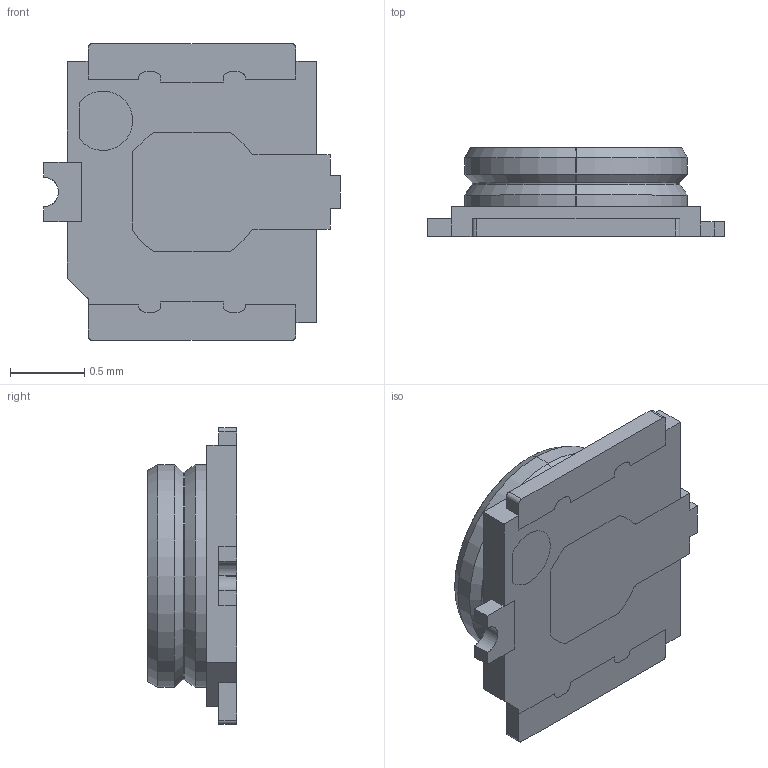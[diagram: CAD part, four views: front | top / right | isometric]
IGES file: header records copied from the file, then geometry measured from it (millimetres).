
Start section: SolidWorks IGES file using analytic representation for surfaces
Global section: file name: C:\3dwork\imaji\00.Web model check\00. New 3D\MHF 4\20449-001EC RECEPTACLE IGES R5 ALL.IGS; native system: SolidWorks 2017; preprocessor: SolidWorks 2017; author: ipxcad-013; date: 180423.165103; units: millimetre
Bounding box: 2 x 0.6 x 2 mm (x, y, z)
Surface area: 13.4 mm2 (no closed solid volume)
Topology: 0 solids, 0 shells, 58 faces, 464 edges, 464 vertices
Faces by surface type: bspline 32, revolution 26
